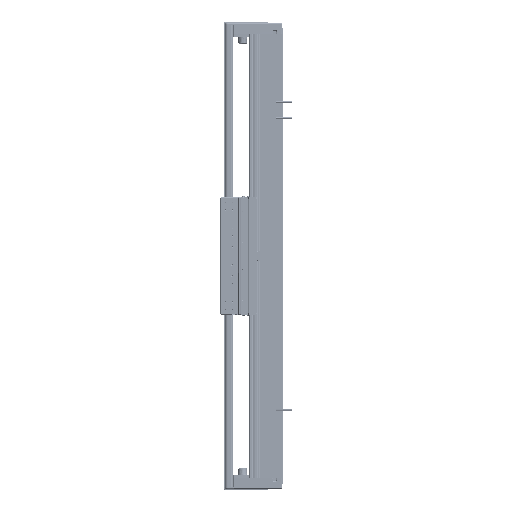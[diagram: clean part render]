
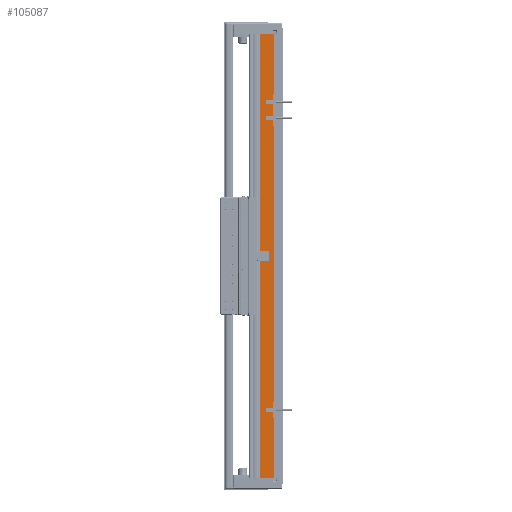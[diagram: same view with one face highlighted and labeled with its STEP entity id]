
A CAD part, left-side view. The second image highlights one B-rep face of the part: STEP entity #105087.
In plain terms, the highlighted planar face has unit normal (-1, 0, 0).
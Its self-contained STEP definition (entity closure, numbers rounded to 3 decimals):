
#6200 = EDGE_CURVE ( 'NONE', #22585, #23609, #56965, .T. ) ;
#6647 = ORIENTED_EDGE ( 'NONE', *, *, #60924, .T. ) ;
#8659 = CARTESIAN_POINT ( 'NONE',  ( -97.5, 14.45, 360. ) ) ;
#9275 = FACE_OUTER_BOUND ( 'NONE', #48901, .T. ) ;
#10015 = VECTOR ( 'NONE', #108920, 1000. ) ;
#10071 = CARTESIAN_POINT ( 'NONE',  ( -97.5, 36.95, 360. ) ) ;
#11068 = ORIENTED_EDGE ( 'NONE', *, *, #115453, .T. ) ;
#13123 = DIRECTION ( 'NONE',  ( 0., -1., 0. ) ) ;
#14818 = LINE ( 'NONE', #108246, #10015 ) ;
#18888 = DIRECTION ( 'NONE',  ( 1., 0., 0. ) ) ;
#22585 = VERTEX_POINT ( 'NONE', #8659 ) ;
#23269 = VECTOR ( 'NONE', #13123, 1000. ) ;
#23609 = VERTEX_POINT ( 'NONE', #102788 ) ;
#33672 = VERTEX_POINT ( 'NONE', #10071 ) ;
#37699 = CARTESIAN_POINT ( 'NONE',  ( -97.5, 14.45, 360. ) ) ;
#38817 = PLANE ( 'NONE',  #120453 ) ;
#42136 = VERTEX_POINT ( 'NONE', #81143 ) ;
#43367 = CARTESIAN_POINT ( 'NONE',  ( -97.5, 36.95, -360. ) ) ;
#44925 = CARTESIAN_POINT ( 'NONE',  ( -97.5, 36.95, 360. ) ) ;
#47646 = ORIENTED_EDGE ( 'NONE', *, *, #60520, .F. ) ;
#48901 = EDGE_LOOP ( 'NONE', ( #6647, #70931, #47646, #11068 ) ) ;
#56965 = LINE ( 'NONE', #37699, #121722 ) ;
#60520 = EDGE_CURVE ( 'NONE', #33672, #22585, #14818, .T. ) ;
#60924 = EDGE_CURVE ( 'NONE', #42136, #23609, #98307, .T. ) ;
#62343 = LINE ( 'NONE', #44925, #132782 ) ;
#69776 = CARTESIAN_POINT ( 'NONE',  ( -97.5, 36.95, 360. ) ) ;
#70931 = ORIENTED_EDGE ( 'NONE', *, *, #6200, .F. ) ;
#81143 = CARTESIAN_POINT ( 'NONE',  ( -97.5, 36.95, -360. ) ) ;
#98307 = LINE ( 'NONE', #43367, #23269 ) ;
#98890 = DIRECTION ( 'NONE',  ( 0., 0., -1. ) ) ;
#102788 = CARTESIAN_POINT ( 'NONE',  ( -97.5, 14.45, -360. ) ) ;
#104238 = DIRECTION ( 'NONE',  ( 0., 0., -1. ) ) ;
#105087 = ADVANCED_FACE ( 'NONE', ( #9275 ), #38817, .F. ) ;
#108246 = CARTESIAN_POINT ( 'NONE',  ( -97.5, 36.95, 360. ) ) ;
#108920 = DIRECTION ( 'NONE',  ( 0., -1., 0. ) ) ;
#111637 = DIRECTION ( 'NONE',  ( 0., 1., 0. ) ) ;
#115453 = EDGE_CURVE ( 'NONE', #33672, #42136, #62343, .T. ) ;
#120453 = AXIS2_PLACEMENT_3D ( 'NONE', #69776, #18888, #111637 ) ;
#121722 = VECTOR ( 'NONE', #98890, 1000. ) ;
#132782 = VECTOR ( 'NONE', #104238, 1000. ) ;
